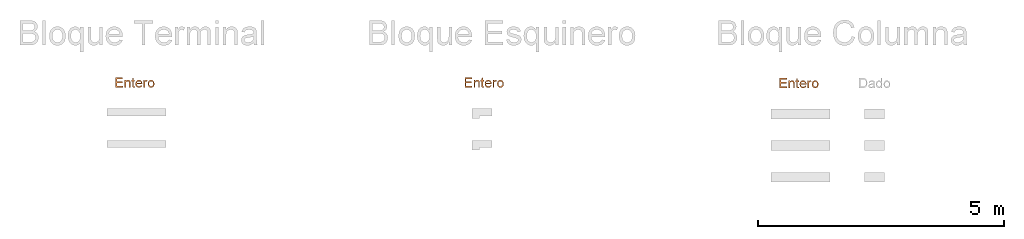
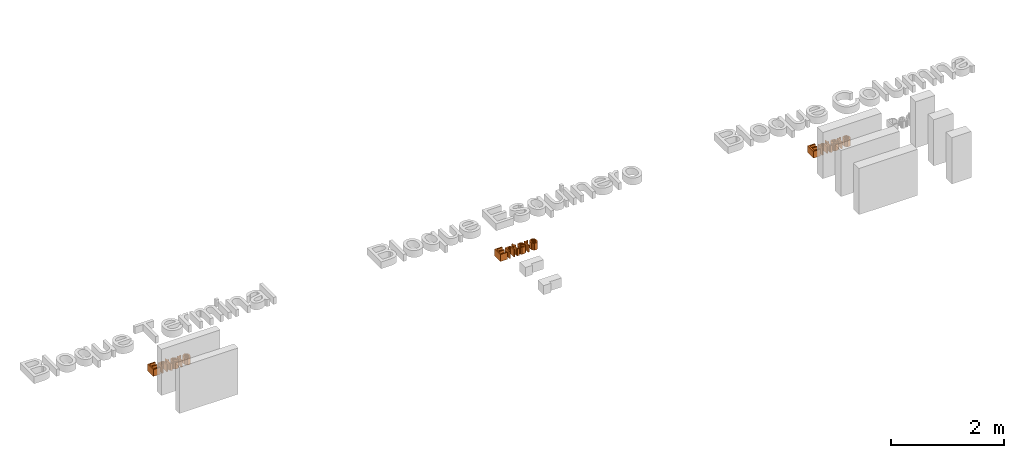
# One storey, part 6 of 8: 3 proxies.
"""IFC2X3 building model written with IfcOpenShell, lengths in metres."""

import ifcopenshell
import ifcopenshell.guid

model = None  # the IFC model being written
_history = None  # IfcOwnerHistory: only IFC2X3 demands one
_inside = {}  # id of a spatial element -> (the spatial element, [elements in it])
_under = {}  # id of a project, library or spatial element -> (it, [spatial elements below it])
_declared = {}  # id of a project -> (the project, [libraries it declares])
_typed = {}  # id of a type object -> (the type object, [elements of that type])
_made_of = {}  # id of a material, layer set ... -> (it, [elements and type objects made of it])


def new_model(schema):
    """Start an empty IFC model of exactly this schema.

    Asked for "IFC4X3", IfcOpenShell would pick the latest addendum, in which some entities
    have other attributes; the version numbers below select the first issue.
    IFC2X3 requires an IfcOwnerHistory on every rooted entity: one is made here for all.
    """
    global model, _history
    if schema == "IFC4X3":
        model = ifcopenshell.file(schema_version=(4, 3, 0, 0))
    else:
        model = ifcopenshell.file(schema=schema)
    _inside.clear()
    _under.clear()
    _declared.clear()
    _typed.clear()
    _made_of.clear()
    _history = None
    if model.schema == "IFC2X3":
        org = make("IfcOrganization", Name="unknown")
        user = make(
            "IfcPersonAndOrganization",
            ThePerson=make("IfcPerson", FamilyName="unknown"),
            TheOrganization=org,
        )
        app = make(
            "IfcApplication",
            ApplicationDeveloper=org,
            Version="unknown",
            ApplicationFullName="unknown",
            ApplicationIdentifier="unknown",
        )
        _history = make(
            "IfcOwnerHistory",
            OwningUser=user,
            OwningApplication=app,
            ChangeAction="ADDED",
            CreationDate=0,
        )
    return model


def make(cls, **values):
    """One entity of the class cls with the attributes given. An attribute that is None is left unset."""
    return model.create_entity(
        cls, **{name: value for name, value in values.items() if value is not None}
    )


def entity(cls, *values):
    """Any entity or typed value of the class cls, its attributes in the order of the schema. None: left unset."""
    e = model.create_entity(cls)
    for i, value in enumerate(values):
        if value is not None:
            e[i] = value
    return e


def rooted(cls, **values):
    """An entity with a GlobalId (a new one), such as an element, a storey or a relation."""
    return make(cls, GlobalId=ifcopenshell.guid.new(), OwnerHistory=_history, **values)


def si_unit(unit_type, name, prefix=None):
    """IfcSIUnit, for example si_unit("LENGTHUNIT", "METRE", prefix="MILLI")."""
    return make("IfcSIUnit", UnitType=unit_type, Prefix=prefix, Name=name)


def converted_unit(unit_type, name, factor, base, dimensions=None, offset=None):
    """IfcConversionBasedUnit, such as the inch: factor (a typed value) times the base unit."""
    return make(
        "IfcConversionBasedUnit"
        if offset is None
        else "IfcConversionBasedUnitWithOffset",
        ConversionOffset=offset,
        Dimensions=None
        if dimensions is None
        else entity("IfcDimensionalExponents", *dimensions),
        UnitType=unit_type,
        Name=name,
        ConversionFactor=make(
            "IfcMeasureWithUnit", ValueComponent=factor, UnitComponent=base
        ),
    )


def derived_unit(unit_type, elements):
    """IfcDerivedUnit: a product of units, each with its exponent."""
    return make(
        "IfcDerivedUnit",
        Elements=[
            make("IfcDerivedUnitElement", Unit=unit, Exponent=power)
            for unit, power in elements
        ],
        UnitType=unit_type,
    )


def assignment(units):
    """IfcUnitAssignment: the units of a project."""
    return None if units is None else make("IfcUnitAssignment", Units=units)


def point(xyz):
    """IfcCartesianPoint."""
    return None if xyz is None else make("IfcCartesianPoint", Coordinates=xyz)


def direction(xyz):
    """IfcDirection."""
    return None if xyz is None else make("IfcDirection", DirectionRatios=xyz)


def frame(location, z_axis=None, x_axis=None):
    """IfcAxis2Placement3D, a coordinate frame: its origin and axes. An axis left out is left unset."""
    return make(
        "IfcAxis2Placement3D",
        Location=point(location),
        Axis=direction(z_axis),
        RefDirection=direction(x_axis),
    )


def origin():
    """The frame at (0, 0, 0) with its axes left unset."""
    return frame((0.0, 0.0, 0.0))


def place(relative_to, where):
    """IfcLocalPlacement: puts the frame where relative to a parent placement (None: the world)."""
    return make(
        "IfcLocalPlacement", PlacementRelTo=relative_to, RelativePlacement=where
    )


def context(
    kind, dimensions, precision=None, world=None, true_north=None, identifier=None
):
    """IfcGeometricRepresentationContext, for example the 3D "Model" context."""
    return make(
        "IfcGeometricRepresentationContext",
        ContextIdentifier=identifier,
        ContextType=kind,
        CoordinateSpaceDimension=dimensions,
        Precision=precision,
        WorldCoordinateSystem=world,
        TrueNorth=true_north,
    )


def subcontext(parent, identifier, kind, view, scale=None):
    """IfcGeometricRepresentationSubContext, for example "Body" below "Model"."""
    return make(
        "IfcGeometricRepresentationSubContext",
        ContextIdentifier=identifier,
        ContextType=kind,
        ParentContext=parent,
        TargetScale=scale,
        TargetView=view,
    )


def project(units=None, contexts=None):
    """IfcProject with its units and contexts."""
    return rooted(
        "IfcProject",
        Name="project",
        RepresentationContexts=contexts,
        UnitsInContext=assignment(units),
    )


def spatial(cls, under=None, at=None, **own):
    """A site, building, storey or space (cls), placed at a placement, below another one or the project."""
    s = rooted(cls, ObjectPlacement=at, **own)
    if under is not None:
        _under.setdefault(under.id(), (under, []))[1].append(s)
    return s


def polyline(points):
    """IfcPolyline through the points."""
    return make("IfcPolyline", Points=[point(p) for p in points])


def outline(outer, holes=None, kind="AREA"):
    """IfcArbitraryClosedProfileDef: a profile drawn as a closed curve; with holes, ...WithVoids."""
    if holes is None:
        return make("IfcArbitraryClosedProfileDef", ProfileType=kind, OuterCurve=outer)
    return make(
        "IfcArbitraryProfileDefWithVoids",
        ProfileType=kind,
        OuterCurve=outer,
        InnerCurves=holes,
    )


def extrude(swept, where, along, depth):
    """IfcExtrudedAreaSolid: the profile swept, set in the frame where, extruded along a direction by depth."""
    return make(
        "IfcExtrudedAreaSolid",
        SweptArea=swept,
        Position=where,
        ExtrudedDirection=direction(along),
        Depth=depth,
    )


def shape(context_of_items, identifier, shape_type, items):
    """IfcShapeRepresentation: the items that make up one representation, for example the "Body"."""
    return make(
        "IfcShapeRepresentation",
        ContextOfItems=context_of_items,
        RepresentationIdentifier=identifier,
        RepresentationType=shape_type,
        Items=items,
    )


def made_of(thing, what):
    """Note that an element or type object is made of a material, layer set ...; save() writes the relation."""
    if what is not None:
        _made_of.setdefault(what.id(), (what, []))[1].append(thing)
    return thing


def type_object(cls, material=None, **own):
    """A type object (cls), such as IfcWallType, which elements share."""
    return made_of(rooted(cls, **own), material)


def element(
    cls,
    number,
    at=None,
    inside=None,
    cuts=None,
    type_object=None,
    material=None,
    context=None,
    identifier="Body",
    shape_type=None,
    held_by="IfcProductDefinitionShape",
    body=None,
    shapes=None,
    **own,
):
    """One element of the class cls, such as IfcWall. Its Tag is "e" and its number.

    at: its placement. inside: the storey or other place that contains it. cuts: it is an
    opening in that element (IfcRelVoidsElement). A single representation is given by context,
    identifier, shape_type and body (its items); several are given by shapes. held_by: the class
    of the entity that holds the representations. save() writes the other relations.
    """
    e = rooted(cls, Tag="e%d" % number, ObjectPlacement=at, **own)
    if body is not None:
        shapes = [shape(context, identifier, shape_type, body)]
    if shapes is not None:
        e.Representation = make(held_by, Representations=shapes)
    if inside is not None:
        _inside.setdefault(inside.id(), (inside, []))[1].append(e)
    if cuts is not None:
        rooted(
            "IfcRelVoidsElement", RelatingBuildingElement=cuts, RelatedOpeningElement=e
        )
    if type_object is not None:
        _typed.setdefault(type_object.id(), (type_object, []))[1].append(e)
    return made_of(e, material)


def aggregate(whole, parts):
    """IfcRelAggregates: a whole, such as a stair, and the parts it consists of."""
    return rooted("IfcRelAggregates", RelatingObject=whole, RelatedObjects=parts)


def save(model, path):
    """Write the relations noted so far, then the file.

    IfcRelAggregates (storeys below a building ...), IfcRelContainedInSpatialStructure (elements
    in a storey), IfcRelDefinesByType, IfcRelAssociatesMaterial and IfcRelDeclares: one each for
    every whole, place, type object, material and project.
    """
    for whole, parts in _under.values():
        aggregate(whole, parts)
    for where, things in _inside.values():
        rooted(
            "IfcRelContainedInSpatialStructure",
            RelatedElements=things,
            RelatingStructure=where,
        )
    for kind, things in _typed.values():
        rooted("IfcRelDefinesByType", RelatedObjects=things, RelatingType=kind)
    for what, things in _made_of.values():
        rooted("IfcRelAssociatesMaterial", RelatedObjects=things, RelatingMaterial=what)
    for by, libraries in _declared.values():
        rooted("IfcRelDeclares", RelatingContext=by, RelatedDefinitions=libraries)
    model.write(path)


model = new_model("IFC2X3")

# Units and contexts
model_context = context("Model", 3, precision=1e-05, world=origin(), true_north=direction((6.12303176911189e-17, 1.0)))
body_context = subcontext(model_context, "Body", "Model", "MODEL_VIEW")
ifc_project = project(units=[si_unit("LENGTHUNIT", "METRE"), si_unit("AREAUNIT", "SQUARE_METRE"), si_unit("VOLUMEUNIT", "CUBIC_METRE"), converted_unit("PLANEANGLEUNIT", "DEGREE", entity("IfcRatioMeasure", 0.0174532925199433), si_unit("PLANEANGLEUNIT", "RADIAN"), dimensions=[0, 0, 0, 0, 0, 0, 0]), si_unit("MASSUNIT", "GRAM", prefix="KILO"), derived_unit("MASSDENSITYUNIT", [(si_unit("MASSUNIT", "GRAM", prefix="KILO"), 1), (si_unit("LENGTHUNIT", "METRE"), -3)]), derived_unit("MOMENTOFINERTIAUNIT", [(si_unit("LENGTHUNIT", "METRE"), 4)]), si_unit("TIMEUNIT", "SECOND"), si_unit("FREQUENCYUNIT", "HERTZ"), si_unit("THERMODYNAMICTEMPERATUREUNIT", "DEGREE_CELSIUS"), derived_unit("THERMALTRANSMITTANCEUNIT", [(si_unit("MASSUNIT", "GRAM", prefix="KILO"), 1), (si_unit("THERMODYNAMICTEMPERATUREUNIT", "KELVIN"), -1), (si_unit("TIMEUNIT", "SECOND"), -3)]), derived_unit("VOLUMETRICFLOWRATEUNIT", [(si_unit("LENGTHUNIT", "METRE"), 3), (si_unit("TIMEUNIT", "SECOND"), -1)]), si_unit("ELECTRICCURRENTUNIT", "AMPERE"), si_unit("ELECTRICVOLTAGEUNIT", "VOLT"), si_unit("POWERUNIT", "WATT"), si_unit("FORCEUNIT", "NEWTON", prefix="KILO"), si_unit("ILLUMINANCEUNIT", "LUX"), si_unit("LUMINOUSFLUXUNIT", "LUMEN"), si_unit("LUMINOUSINTENSITYUNIT", "CANDELA"), derived_unit("USERDEFINED", [(si_unit("MASSUNIT", "GRAM", prefix="KILO"), -1), (si_unit("LENGTHUNIT", "METRE"), -2), (si_unit("TIMEUNIT", "SECOND"), 3), (si_unit("LUMINOUSFLUXUNIT", "LUMEN"), 1)]), derived_unit("LINEARVELOCITYUNIT", [(si_unit("LENGTHUNIT", "METRE"), 1), (si_unit("TIMEUNIT", "SECOND"), -1)]), si_unit("PRESSUREUNIT", "PASCAL"), derived_unit("USERDEFINED", [(si_unit("LENGTHUNIT", "METRE"), -2), (si_unit("MASSUNIT", "GRAM", prefix="KILO"), 1), (si_unit("TIMEUNIT", "SECOND"), -2)]), derived_unit("LINEARFORCEUNIT", [(si_unit("MASSUNIT", "GRAM", prefix="KILO"), 1), (si_unit("LENGTHUNIT", "METRE"), 1), (si_unit("TIMEUNIT", "SECOND"), -2), (si_unit("LENGTHUNIT", "METRE"), -1)]), derived_unit("PLANARFORCEUNIT", [(si_unit("MASSUNIT", "GRAM", prefix="KILO"), 1), (si_unit("LENGTHUNIT", "METRE"), 1), (si_unit("TIMEUNIT", "SECOND"), -2), (si_unit("LENGTHUNIT", "METRE"), -2)])], contexts=[model_context])

# Site, building, storey
site_placement = place(None, origin())
site = spatial("IfcSite", under=ifc_project, at=site_placement, Name="Default", CompositionType="ELEMENT")
building_placement = place(site_placement, origin())
building = spatial("IfcBuilding", under=site, at=building_placement, CompositionType="ELEMENT")
storey_placement = place(building_placement, origin())
storey = spatial("IfcBuildingStorey", under=building, at=storey_placement, Name="Nivel 1", CompositionType="ELEMENT", Elevation=0.0)

# Proxies
building_element_proxy_type_1 = type_object("IfcBuildingElementProxyType", Name="Texto de modelo:Subtítulo", PredefinedType="NOTDEFINED")
proxy_1_placement = place(storey_placement, origin())
element("IfcBuildingElementProxy", 1, at=proxy_1_placement, inside=storey, type_object=building_element_proxy_type_1, Name="Texto de modelo:Subtítulo", ObjectType="Texto de modelo:Subtítulo", context=body_context, shape_type="SweptSolid", body=[
    extrude(outline(polyline([(-0.080051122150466, -0.101502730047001), (0.0674940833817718, -0.101502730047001), (0.0674940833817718, -0.0763886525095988), (-0.0549370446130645, -0.0763886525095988), (-0.0549370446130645, -0.0104641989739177), (0.0580763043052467, -0.0104641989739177), (0.0580763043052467, 0.0146498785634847), (-0.0549370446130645, 0.0146498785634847), (-0.0549370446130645, 0.0742958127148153), (0.064354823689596, 0.0742958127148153), (0.064354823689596, 0.0994098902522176), (-0.080051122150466, 0.0994098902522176), (-0.080051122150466, -0.101502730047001)])), frame((-14.6766607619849, -0.0288692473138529, 0.0)), (0.0, 0.0, 1.0), 0.15),
    extrude(outline(polyline([(-0.0610913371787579, -0.102201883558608), (-0.0359772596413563, -0.102201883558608), (-0.0359772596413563, -0.0239165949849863), (-0.0331139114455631, -0.000776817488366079), (-0.0245238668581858, 0.013509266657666), (-0.0119852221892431, 0.0209036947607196), (0.00272392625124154, 0.0233685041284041), (0.0199653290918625, 0.0189784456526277), (0.030192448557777, 0.00723074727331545), (0.0330864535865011, -0.0149893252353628), (0.0330864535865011, -0.102201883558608), (0.0582005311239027, -0.102201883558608), (0.0582005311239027, -0.0116048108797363), (0.0568761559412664, 0.012675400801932), (0.0493468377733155, 0.0311430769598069), (0.0331600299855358, 0.0437001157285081), (0.00944390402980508, 0.0484825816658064), (-0.00454174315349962, 0.0469987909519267), (-0.0167738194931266, 0.0425474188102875), (-0.0272523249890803, 0.0351284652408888), (-0.0359772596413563, 0.0247419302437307), (-0.0359772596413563, 0.0453433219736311), (-0.0610913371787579, 0.0453433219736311), (-0.0610913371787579, -0.102201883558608)])), frame((-14.5135434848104, -0.0281700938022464, 0.0)), (0.0, 0.0, 1.0), 0.15),
    extrude(outline(polyline([(-0.0351329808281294, -0.0583737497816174), (-0.0402910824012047, -0.079664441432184), (-0.0218126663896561, -0.0838186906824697), (-0.000471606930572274, -0.0816406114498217), (0.011004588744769, -0.071734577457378), (0.0167042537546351, -0.0436466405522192), (0.024388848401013, 0.0379564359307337), (0.0431414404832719, 0.0361904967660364), (0.0454960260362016, 0.0611939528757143), (0.0267434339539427, 0.0629598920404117), (0.0301051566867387, 0.0986581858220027), (0.00648593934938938, 0.115712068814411), (0.0017399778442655, 0.0653144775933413), (-0.0232634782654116, 0.0676690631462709), (-0.0256180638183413, 0.042665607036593), (-0.00061460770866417, 0.0403110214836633), (-0.00823022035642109, -0.0405595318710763), (-0.010762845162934, -0.0533277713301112), (-0.0154658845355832, -0.0574914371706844), (-0.0241462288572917, -0.0583737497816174), (-0.0351329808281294, -0.0583737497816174)])), frame((-14.3969490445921, -0.0480166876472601, 0.0), z_axis=(0.0, 0.0, -1.0), x_axis=(-0.995595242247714, 0.0937556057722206, 0.0)), (0.0, 0.0, -1.0), 0.15),
    extrude(outline(polyline([(-0.00993794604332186, -0.0410894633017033), (-0.0216263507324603, -0.0629882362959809), (-0.00136076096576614, -0.0664886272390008), (0.0181427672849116, -0.062967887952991), (0.0362596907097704, -0.0523738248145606), (0.0523654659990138, -0.0346542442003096), (0.065361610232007, -0.00774419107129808), (0.0663157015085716, 0.0193800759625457), (0.0551946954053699, 0.0449978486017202), (0.0319655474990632, 0.067388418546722), (0.00225549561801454, 0.0824990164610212), (-0.0263080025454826, 0.084857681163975), (-0.0517924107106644, 0.0755140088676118), (-0.0722651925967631, 0.055517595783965), (-0.0838796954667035, 0.0303111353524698), (-0.083981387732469, 0.00365713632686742), (-0.0721795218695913, -0.0222407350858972), (-0.0480833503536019, -0.045178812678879), (-0.042477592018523, -0.0489757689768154), (0.0228336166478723, 0.0430743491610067), (0.0356497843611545, 0.028650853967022), (0.0410775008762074, 0.0124178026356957), (0.0395747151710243, -0.00438600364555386), (0.0315993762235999, -0.0205217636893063), (0.0130702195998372, -0.0375669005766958), (0.00222602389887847, -0.0410894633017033), (-0.00993794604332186, -0.0410894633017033)]), holes=[polyline([(0.0023513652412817, 0.0576068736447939), (-0.0485124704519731, -0.0140810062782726), (-0.0573680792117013, -0.00363287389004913), (-0.0612558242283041, 0.00728999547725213), (-0.0599840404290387, 0.0243403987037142), (-0.0517261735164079, 0.0410650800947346), (-0.0400149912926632, 0.0535127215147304), (-0.0261693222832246, 0.0608523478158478), (-0.0115826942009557, 0.0624337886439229), (0.0023513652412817, 0.0576068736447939)])]), frame((-14.278290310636, -0.0707505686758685, 0.0), z_axis=(0.0, 0.0, -1.0), x_axis=(-0.578660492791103, -0.815568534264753, 0.0)), (0.0, 0.0, -1.0), 0.15),
    extrude(outline(polyline([(-0.0370877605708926, -0.11143145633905), (-0.011973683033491, -0.11143145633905), (-0.011973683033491, -0.0338819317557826), (-0.00790245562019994, -0.00454947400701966), (0.00114744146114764, 0.00918478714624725), (0.0153476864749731, 0.0141389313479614), (0.0330060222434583, 0.00898858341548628), (0.0413937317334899, 0.031502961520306), (0.0286895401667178, 0.0373154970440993), (0.016181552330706, 0.0392530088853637), (0.000485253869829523, 0.0343969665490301), (-0.0151129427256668, 0.0142860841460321), (-0.0151129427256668, 0.0361137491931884), (-0.0370877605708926, 0.0361137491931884), (-0.0370877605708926, -0.11143145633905)])), frame((-14.1514181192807, -0.0189405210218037, 0.0)), (0.0, 0.0, 1.0), 0.15),
    extrude(outline(polyline([(-0.0116534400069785, -0.0669843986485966), (0.0215735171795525, -0.0669843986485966), (0.0474010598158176, -0.0567621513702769), (0.0650090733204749, -0.0379496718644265), (0.0735774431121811, -0.0121789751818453), (0.0737787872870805, 0.00568792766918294), (0.0693254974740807, 0.0227506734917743), (0.0604863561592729, 0.0378207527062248), (0.0475301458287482, 0.0497096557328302), (0.0292360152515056, 0.0584068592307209), (0.00438311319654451, 0.0639018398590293), (-0.027228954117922, 0.0636287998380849), (-0.0525847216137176, 0.0531926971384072), (-0.0702507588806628, 0.0343634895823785), (-0.078793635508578, 0.00891113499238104), (-0.0780541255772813, -0.0155295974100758), (-0.0686800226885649, -0.0371544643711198), (-0.0589084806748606, -0.0481042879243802), (-0.0461468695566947, -0.0567258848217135), (-0.0116534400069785, -0.0669843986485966)]), holes=[polyline([(-0.00825874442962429, -0.0421007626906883), (-0.0303624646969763, -0.0361073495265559), (-0.0451706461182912, -0.025255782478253), (-0.0529373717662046, -0.0109345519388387), (-0.053916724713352, 0.00546785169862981), (-0.0485294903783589, 0.0208219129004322), (-0.0371292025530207, 0.0324839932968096), (-0.0201048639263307, 0.0389852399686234), (0.00215452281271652, 0.0388567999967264), (0.0247623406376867, 0.0327936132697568), (0.0398195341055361, 0.0219075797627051), (0.0476807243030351, 0.00759803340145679), (0.0487005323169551, -0.00873569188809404), (0.0432906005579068, -0.0242537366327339), (0.031889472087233, -0.0359218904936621), (0.0146540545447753, -0.0423382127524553), (-0.00825874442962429, -0.0421007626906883)])]), frame((-14.0326570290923, -0.0589588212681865, 0.0), z_axis=(0.0, 0.0, 1.0), x_axis=(0.137105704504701, -0.990556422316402, 0.0)), (0.0, 0.0, 1.0), 0.15),
])
building_element_proxy_type_2 = type_object("IfcBuildingElementProxyType", Name="Texto de modelo:Subtítulo", PredefinedType="NOTDEFINED")
proxy_2_placement = place(storey_placement, origin())
element("IfcBuildingElementProxy", 2, at=proxy_2_placement, inside=storey, type_object=building_element_proxy_type_2, Name="Texto de modelo:Subtítulo", ObjectType="Texto de modelo:Subtítulo", context=body_context, shape_type="SweptSolid", body=[
    extrude(outline(polyline([(-0.0800511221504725, -0.101502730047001), (0.0674940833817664, -0.101502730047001), (0.0674940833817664, -0.0763886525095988), (-0.0549370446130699, -0.0763886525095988), (-0.0549370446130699, -0.0104641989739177), (0.0580763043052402, -0.0104641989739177), (0.0580763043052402, 0.0146498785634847), (-0.0549370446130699, 0.0146498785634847), (-0.0549370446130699, 0.0742958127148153), (0.0643548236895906, 0.0742958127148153), (0.0643548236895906, 0.0994098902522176), (-0.0800511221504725, 0.0994098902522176), (-0.0800511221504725, -0.101502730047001)])), frame((-7.57666076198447, -0.0288692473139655, 0.0)), (0.0, 0.0, 1.0), 0.15),
    extrude(outline(polyline([(-0.0610913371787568, -0.102201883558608), (-0.0359772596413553, -0.102201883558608), (-0.0359772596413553, -0.0239165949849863), (-0.0331139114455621, -0.000776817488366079), (-0.0245238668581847, 0.013509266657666), (-0.011985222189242, 0.0209036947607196), (0.00272392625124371, 0.0233685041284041), (0.0199653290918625, 0.0189784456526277), (0.030192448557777, 0.00723074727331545), (0.0330864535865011, -0.0149893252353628), (0.0330864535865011, -0.102201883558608), (0.0582005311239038, -0.102201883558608), (0.0582005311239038, -0.0116048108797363), (0.0568761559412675, 0.012675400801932), (0.0493468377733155, 0.0311430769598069), (0.0331600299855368, 0.0437001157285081), (0.00944390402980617, 0.0484825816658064), (-0.00454174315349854, 0.0469987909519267), (-0.0167738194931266, 0.0425474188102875), (-0.0272523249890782, 0.0351284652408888), (-0.0359772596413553, 0.0247419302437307), (-0.0359772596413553, 0.0453433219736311), (-0.0610913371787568, 0.0453433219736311), (-0.0610913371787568, -0.102201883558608)])), frame((-7.41354348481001, -0.028170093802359, 0.0)), (0.0, 0.0, 1.0), 0.15),
    extrude(outline(polyline([(-0.0351329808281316, -0.0583737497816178), (-0.0402910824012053, -0.0796644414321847), (-0.0218126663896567, -0.08381869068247), (-0.000471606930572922, -0.0816406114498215), (0.0110045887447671, -0.0717345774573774), (0.0167042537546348, -0.0436466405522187), (0.0243888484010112, 0.0379564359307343), (0.0431414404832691, 0.0361904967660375), (0.0454960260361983, 0.0611939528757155), (0.0267434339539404, 0.0629598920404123), (0.0301051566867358, 0.0986581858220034), (0.00648593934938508, 0.115712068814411), (0.00173997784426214, 0.0653144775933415), (-0.0232634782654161, 0.0676690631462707), (-0.0256180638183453, 0.0426656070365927), (-0.000614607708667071, 0.0403110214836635), (-0.0082302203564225, -0.0405595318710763), (-0.0107628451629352, -0.0533277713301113), (-0.0154658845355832, -0.0574914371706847), (-0.0241462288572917, -0.0583737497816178), (-0.0351329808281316, -0.0583737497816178)])), frame((-7.2969490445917, -0.0480166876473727, 0.0), z_axis=(0.0, 0.0, -1.0), x_axis=(-0.995595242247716, 0.0937556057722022, 0.0)), (0.0, 0.0, -1.0), 0.15),
    extrude(outline(polyline([(-0.00993794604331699, -0.0410894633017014), (-0.0216263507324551, -0.0629882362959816), (-0.00136076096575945, -0.0664886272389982), (0.0181427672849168, -0.0629678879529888), (0.036259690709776, -0.0523738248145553), (0.0523654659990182, -0.0346542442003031), (0.0653616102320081, -0.00774419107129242), (0.0663157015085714, 0.0193800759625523), (0.0551946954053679, 0.044997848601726), (0.0319655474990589, 0.0673884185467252), (0.00225549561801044, 0.082499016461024), (-0.0263080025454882, 0.084857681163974), (-0.0517924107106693, 0.0755140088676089), (-0.0722651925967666, 0.0555175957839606), (-0.0838796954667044, 0.0303111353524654), (-0.0839813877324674, 0.00365713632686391), (-0.0721795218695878, -0.0222407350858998), (-0.048083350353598, -0.0451788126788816), (-0.0424775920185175, -0.0489757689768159), (0.0228336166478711, 0.043074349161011), (0.0356497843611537, 0.0286508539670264), (0.0410775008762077, 0.0124178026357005), (0.0395747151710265, -0.0043860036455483), (0.0315993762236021, -0.0205217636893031), (0.0130702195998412, -0.0375669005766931), (0.0022260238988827, -0.0410894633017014), (-0.00993794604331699, -0.0410894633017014)]), holes=[polyline([(0.00235136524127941, 0.0576068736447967), (-0.0485124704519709, -0.0140810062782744), (-0.0573680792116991, -0.00363287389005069), (-0.061255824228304, 0.00728999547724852), (-0.0599840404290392, 0.0243403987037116), (-0.0517261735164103, 0.0410650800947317), (-0.0400149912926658, 0.0535127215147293), (-0.0261693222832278, 0.0608523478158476), (-0.011582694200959, 0.0624337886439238), (0.00235136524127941, 0.0576068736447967)])]), frame((-7.17829031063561, -0.0707505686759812, 0.0), z_axis=(0.0, 0.0, -1.0), x_axis=(-0.578660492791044, -0.815568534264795, 0.0)), (0.0, 0.0, -1.0), 0.15),
    extrude(outline(polyline([(-0.0370877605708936, -0.11143145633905), (-0.0119736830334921, -0.11143145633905), (-0.0119736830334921, -0.0338819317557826), (-0.00790245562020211, -0.00454947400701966), (0.00114744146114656, 0.00918478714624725), (0.0153476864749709, 0.0141389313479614), (0.0330060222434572, 0.00898858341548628), (0.0413937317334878, 0.031502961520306), (0.0286895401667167, 0.0373154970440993), (0.0161815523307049, 0.0392530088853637), (0.000485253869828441, 0.0343969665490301), (-0.0151129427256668, 0.0142860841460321), (-0.0151129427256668, 0.0361137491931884), (-0.0370877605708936, 0.0361137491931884), (-0.0370877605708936, -0.11143145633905)])), frame((-7.05141811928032, -0.0189405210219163, 0.0)), (0.0, 0.0, 1.0), 0.15),
    extrude(outline(polyline([(-0.0116534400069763, -0.066984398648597), (0.0215735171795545, -0.066984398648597), (0.0474010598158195, -0.0567621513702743), (0.0650090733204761, -0.0379496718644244), (0.0735774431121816, -0.0121789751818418), (0.0737787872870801, 0.00568792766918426), (0.06932549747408, 0.0227506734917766), (0.0604863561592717, 0.0378207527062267), (0.0475301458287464, 0.0497096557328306), (0.0292360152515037, 0.0584068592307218), (0.0043831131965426, 0.0639018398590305), (-0.0272289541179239, 0.063628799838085), (-0.0525847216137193, 0.0531926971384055), (-0.0702507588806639, 0.0343634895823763), (-0.0787936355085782, 0.00891113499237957), (-0.0780541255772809, -0.0155295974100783), (-0.0686800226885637, -0.037154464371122), (-0.058908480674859, -0.0481042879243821), (-0.0461468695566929, -0.056725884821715), (-0.0116534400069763, -0.066984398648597)]), holes=[polyline([(-0.00825874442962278, -0.0421007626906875), (-0.030362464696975, -0.0361073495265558), (-0.0451706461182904, -0.0252557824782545), (-0.0529373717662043, -0.0109345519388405), (-0.0539167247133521, 0.00546785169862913), (-0.0485294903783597, 0.0208219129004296), (-0.0371292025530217, 0.0324839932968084), (-0.0201048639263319, 0.0389852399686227), (0.00215452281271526, 0.0388567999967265), (0.0247623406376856, 0.0327936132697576), (0.0398195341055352, 0.0219075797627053), (0.0476807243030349, 0.00759803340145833), (0.0487005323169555, -0.00873569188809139), (0.0432906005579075, -0.0242537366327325), (0.0318894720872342, -0.0359218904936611), (0.0146540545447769, -0.0423382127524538), (-0.00825874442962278, -0.0421007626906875)])]), frame((-6.93265702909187, -0.0589588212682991, 0.0), z_axis=(0.0, 0.0, 1.0), x_axis=(0.137105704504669, -0.990556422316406, 0.0)), (0.0, 0.0, 1.0), 0.15),
])
building_element_proxy_type_3 = type_object("IfcBuildingElementProxyType", Name="Texto de modelo:Subtítulo", PredefinedType="NOTDEFINED")
proxy_3_placement = place(storey_placement, origin())
element("IfcBuildingElementProxy", 3, at=proxy_3_placement, inside=storey, type_object=building_element_proxy_type_3, Name="Texto de modelo:Subtítulo", ObjectType="Texto de modelo:Subtítulo", context=body_context, shape_type="SweptSolid", body=[
    extrude(outline(polyline([(-0.0800511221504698, -0.101502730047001), (0.0674940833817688, -0.101502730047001), (0.0674940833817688, -0.0763886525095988), (-0.0549370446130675, -0.0763886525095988), (-0.0549370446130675, -0.0104641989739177), (0.0580763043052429, -0.0104641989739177), (0.0580763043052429, 0.0146498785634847), (-0.0549370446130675, 0.0146498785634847), (-0.0549370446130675, 0.0742958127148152), (0.0643548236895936, 0.0742958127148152), (0.0643548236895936, 0.0994098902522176), (-0.0800511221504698, 0.0994098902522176), (-0.0800511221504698, -0.101502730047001)])), frame((-1.17666076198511, -0.0387433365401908, 0.0)), (0.0, 0.0, 1.0), 0.15),
    extrude(outline(polyline([(-0.0610913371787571, -0.102201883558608), (-0.0359772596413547, -0.102201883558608), (-0.0359772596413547, -0.0239165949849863), (-0.0331139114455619, -0.000776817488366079), (-0.0245238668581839, 0.013509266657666), (-0.0119852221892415, 0.0209036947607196), (0.00272392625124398, 0.0233685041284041), (0.0199653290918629, 0.0189784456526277), (0.0301924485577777, 0.00723074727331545), (0.0330864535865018, -0.0149893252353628), (0.0330864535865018, -0.102201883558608), (0.0582005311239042, -0.102201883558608), (0.0582005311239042, -0.0116048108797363), (0.0568761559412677, 0.012675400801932), (0.0493468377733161, 0.0311430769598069), (0.0331600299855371, 0.0437001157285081), (0.00944390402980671, 0.0484825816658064), (-0.00454174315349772, 0.0469987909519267), (-0.0167738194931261, 0.0425474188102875), (-0.0272523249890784, 0.0351284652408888), (-0.0359772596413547, 0.0247419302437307), (-0.0359772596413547, 0.0453433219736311), (-0.0610913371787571, 0.0453433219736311), (-0.0610913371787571, -0.102201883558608)])), frame((-1.01354348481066, -0.0380441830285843, 0.0)), (0.0, 0.0, 1.0), 0.15),
    extrude(outline(polyline([(-0.0351329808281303, -0.0583737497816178), (-0.0402910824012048, -0.0796644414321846), (-0.0218126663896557, -0.08381869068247), (-0.000471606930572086, -0.0816406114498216), (0.0110045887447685, -0.0717345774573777), (0.0167042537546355, -0.0436466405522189), (0.0243888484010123, 0.0379564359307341), (0.0431414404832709, 0.0361904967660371), (0.0454960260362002, 0.0611939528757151), (0.0267434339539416, 0.0629598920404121), (0.0301051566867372, 0.0986581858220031), (0.00648593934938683, 0.115712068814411), (0.00173997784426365, 0.0653144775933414), (-0.0232634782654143, 0.0676690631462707), (-0.0256180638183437, 0.0426656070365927), (-0.000614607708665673, 0.0403110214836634), (-0.00823022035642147, -0.0405595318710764), (-0.0107628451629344, -0.0533277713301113), (-0.0154658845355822, -0.0574914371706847), (-0.024146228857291, -0.0583737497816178), (-0.0351329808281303, -0.0583737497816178)])), frame((-0.896949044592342, -0.0578907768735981, 0.0), z_axis=(0.0, 0.0, -1.0), x_axis=(-0.995595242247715, 0.0937556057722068, 0.0)), (0.0, 0.0, -1.0), 0.15),
    extrude(outline(polyline([(-0.00993794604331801, -0.0410894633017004), (-0.0216263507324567, -0.0629882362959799), (-0.00136076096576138, -0.0664886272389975), (0.0181427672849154, -0.0629678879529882), (0.0362596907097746, -0.0523738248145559), (0.0523654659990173, -0.0346542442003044), (0.0653616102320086, -0.00774419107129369), (0.0663157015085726, 0.0193800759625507), (0.0551946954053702, 0.0449978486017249), (0.0319655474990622, 0.0673884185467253), (0.00225549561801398, 0.0824990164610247), (-0.0263080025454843, 0.084857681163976), (-0.0517924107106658, 0.0755140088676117), (-0.0722651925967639, 0.055517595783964), (-0.0838796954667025, 0.0303111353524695), (-0.0839813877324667, 0.00365713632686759), (-0.0721795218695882, -0.0222407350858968), (-0.0480833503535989, -0.0451788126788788), (-0.0424775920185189, -0.0489757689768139), (0.022833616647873, 0.0430743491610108), (0.0356497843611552, 0.0286508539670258), (0.0410775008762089, 0.0124178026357), (0.039574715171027, -0.0043860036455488), (0.0315993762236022, -0.020521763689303), (0.0130702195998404, -0.0375669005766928), (0.002226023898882, -0.0410894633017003), (-0.00993794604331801, -0.0410894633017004)]), holes=[polyline([(0.00235136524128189, 0.0576068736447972), (-0.0485124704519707, -0.0140810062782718), (-0.0573680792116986, -0.00363287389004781), (-0.0612558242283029, 0.00728999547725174), (-0.0599840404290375, 0.0243403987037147), (-0.051726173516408, 0.0410650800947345), (-0.0400149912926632, 0.0535127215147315), (-0.0261693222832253, 0.060852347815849), (-0.0115826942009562, 0.0624337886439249), (0.00235136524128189, 0.0576068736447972)])]), frame((-0.778290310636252, -0.0806246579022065, 0.0), z_axis=(0.0, 0.0, -1.0), x_axis=(-0.578660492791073, -0.815568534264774, 0.0)), (0.0, 0.0, -1.0), 0.15),
    extrude(outline(polyline([(-0.0370877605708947, -0.11143145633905), (-0.0119736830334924, -0.11143145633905), (-0.0119736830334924, -0.0338819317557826), (-0.00790245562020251, -0.00454947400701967), (0.00114744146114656, 0.00918478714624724), (0.0153476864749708, 0.0141389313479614), (0.0330060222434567, 0.00898858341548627), (0.0413937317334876, 0.031502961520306), (0.0286895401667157, 0.0373154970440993), (0.0161815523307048, 0.0392530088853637), (0.000485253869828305, 0.03439696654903), (-0.0151129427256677, 0.0142860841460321), (-0.0151129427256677, 0.0361137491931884), (-0.0370877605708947, 0.0361137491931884), (-0.0370877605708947, -0.11143145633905)])), frame((-0.65141811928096, -0.0288146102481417, 0.0)), (0.0, 0.0, 1.0), 0.15),
    extrude(outline(polyline([(-0.0116534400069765, -0.0669843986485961), (0.0215735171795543, -0.0669843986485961), (0.0474010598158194, -0.056762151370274), (0.065009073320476, -0.0379496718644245), (0.0735774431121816, -0.0121789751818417), (0.0737787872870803, 0.00568792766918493), (0.0693254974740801, 0.0227506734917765), (0.060486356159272, 0.0378207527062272), (0.0475301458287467, 0.0497096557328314), (0.0292360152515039, 0.0584068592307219), (0.00438311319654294, 0.0639018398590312), (-0.0272289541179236, 0.0636287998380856), (-0.052584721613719, 0.0531926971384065), (-0.0702507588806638, 0.0343634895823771), (-0.0787936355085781, 0.00891113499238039), (-0.0780541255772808, -0.0155295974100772), (-0.0686800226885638, -0.0371544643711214), (-0.0589084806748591, -0.0481042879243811), (-0.046146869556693, -0.0567258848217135), (-0.0116534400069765, -0.0669843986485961)]), holes=[polyline([(-0.00825874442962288, -0.0421007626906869), (-0.0303624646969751, -0.0361073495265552), (-0.0451706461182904, -0.0252557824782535), (-0.0529373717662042, -0.0109345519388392), (-0.053916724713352, 0.00546785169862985), (-0.0485294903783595, 0.0208219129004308), (-0.0371292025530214, 0.0324839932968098), (-0.0201048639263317, 0.0389852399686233), (0.00215452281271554, 0.0388567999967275), (0.0247623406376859, 0.0327936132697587), (0.0398195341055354, 0.021907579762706), (0.047680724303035, 0.00759803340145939), (0.0487005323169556, -0.00873569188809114), (0.0432906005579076, -0.0242537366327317), (0.0318894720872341, -0.0359218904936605), (0.0146540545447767, -0.0423382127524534), (-0.00825874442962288, -0.0421007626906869)])]), frame((-0.532657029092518, -0.0688329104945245, 0.0), z_axis=(0.0, 0.0, 1.0), x_axis=(0.137105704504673, -0.990556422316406, 0.0)), (0.0, 0.0, 1.0), 0.15),
])

save(model, "model.ifc")
